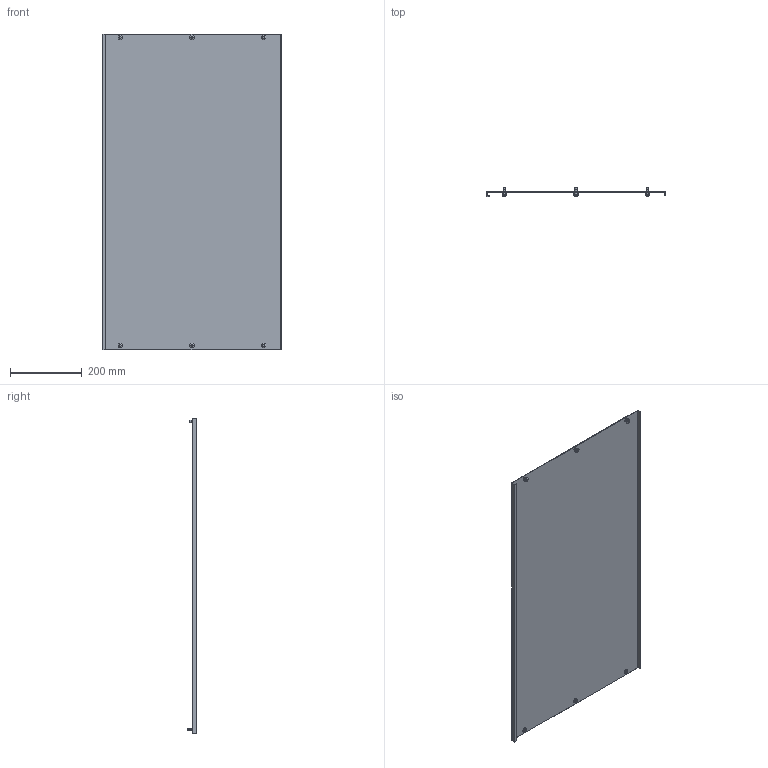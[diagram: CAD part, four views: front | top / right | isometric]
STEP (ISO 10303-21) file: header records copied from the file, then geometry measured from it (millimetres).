
FILE_DESCRIPTION (( 'STEP AP214' ), '1' );
FILE_NAME ('FO-00-PVS-050-100 Ïëàñòðîí ãëóõîé âíóòðåííèé 500õ1000.STEP', '2025-09-30T07:40:27', ( '' ), ( '' ), 'SwSTEP 2.0', 'SolidWorks 2023', '' );
FILE_SCHEMA (( 'AUTOMOTIVE_DESIGN' ));
Length unit declared in the file: millimetre
Products named in the file (3): Винт M6x16 050 IEK; FO-00-PVS-050-100 Пластрон глухой внутренний 500х1000
Assembly tree (3 placements, depth 2):
  FO-00-PVS-050-100 Пластрон глухой внутренний 500х1000
    FO-00-PVS-050-100 Пластрон глухой внутренний 500х1000
    Винт M6x16 050 IEK  x2
Bounding box: 498 x 27.19 x 879 mm (x, y, z)
Volume: 695160.8 mm3; surface area: 928974.7 mm2
Topology: 7 solids, 7 shells, 214 faces, 558 edges, 364 vertices
Faces by surface type: cylinder 132, plane 52, cone 18, bspline 12
Entity records: 4464 total; most frequent: CARTESIAN_POINT 1022, ORIENTED_EDGE 708, DIRECTION 692, EDGE_CURVE 354, AXIS2_PLACEMENT_3D 256, VERTEX_POINT 232, VECTOR 180, LINE 180
